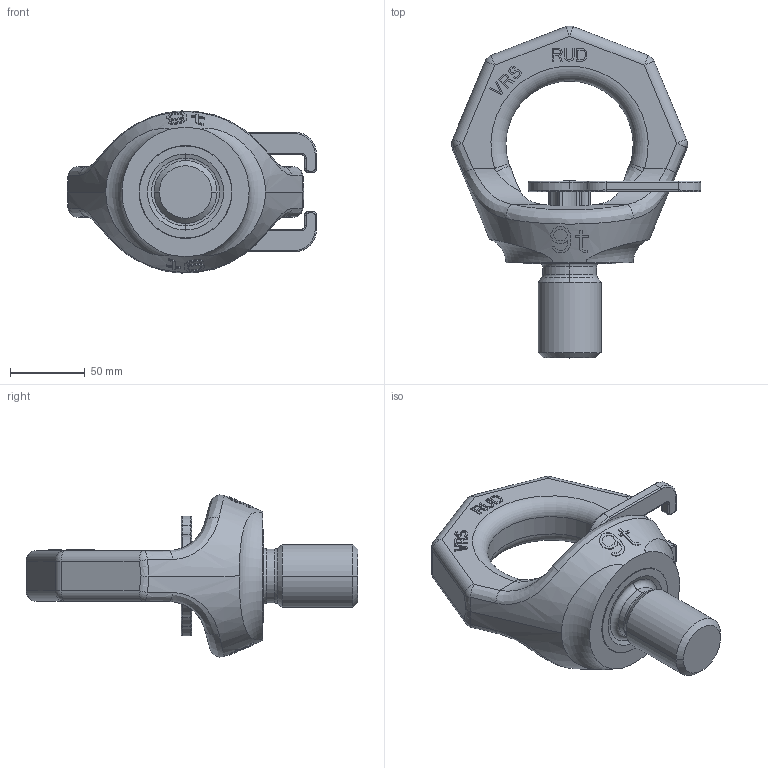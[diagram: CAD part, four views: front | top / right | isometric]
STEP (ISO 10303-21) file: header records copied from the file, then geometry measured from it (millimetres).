
FILE_DESCRIPTION((''),'2;1');
FILE_NAME('001-M32987-P-2_ASM','2017-11-17T',('andreas.wendler'),(''),'PRO/ENGINEER BY PARAMETRIC TECHNOLOGY CORPORATION, 2011490','PRO/ENGINEER BY PARAMETRIC TECHNOLOGY CORPORATION, 2011490','');
FILE_SCHEMA(('CONFIG_CONTROL_DESIGN'));
Length unit declared in the file: millimetre
Products named in the file (4): 001-M32987-P-1; 001-M32458-P-1; 001-M31156-P-3; 001-M32987-P-2_ASM
Assembly tree (3 placements, depth 2):
  001-M32987-P-2_ASM
    001-M32987-P-1
    001-M32458-P-1
    001-M31156-P-3
Bounding box: 166.37 x 221.48 x 108.19 mm (x, y, z)
Volume: 712436.9 mm3; surface area: 104363.2 mm2
Topology: 3 solids, 3 shells, 672 faces, 1798 edges, 1155 vertices
Faces by surface type: plane 495, cylinder 79, torus 44, bspline 30, sphere 14, cone 10
Entity records: 23890 total; most frequent: CARTESIAN_POINT 7716, ORIENTED_EDGE 3596, DIRECTION 2949, EDGE_CURVE 1798, VECTOR 1175, LINE 1175, VERTEX_POINT 1155, AXIS2_PLACEMENT_3D 887
